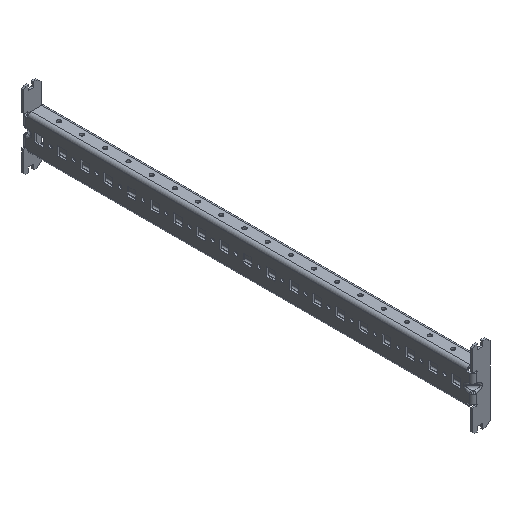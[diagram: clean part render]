
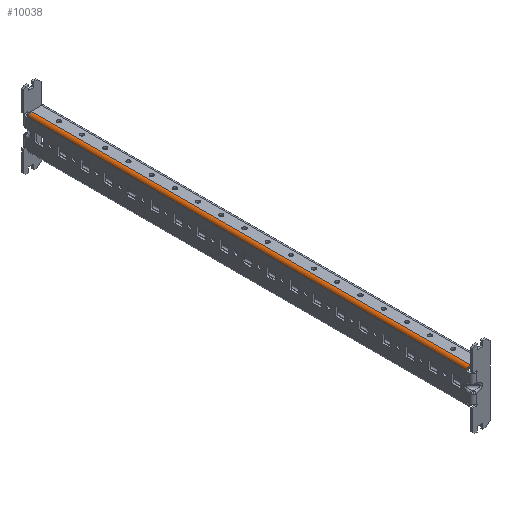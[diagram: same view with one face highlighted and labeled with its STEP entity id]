
A CAD part, isometric view. The second image highlights one B-rep face of the part: STEP entity #10038.
In plain terms, the highlighted cylindrical face has radius 3.5 mm (diameter 7 mm), a partial arc.
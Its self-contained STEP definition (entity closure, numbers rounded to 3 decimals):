
#1176 = CARTESIAN_POINT ( 'NONE',  ( 3.5, -236.625, 15.5 ) ) ;
#1177 = DIRECTION ( 'NONE',  ( 0., -1., 0. ) ) ;
#1178 = DIRECTION ( 'NONE',  ( 0., 0., -1. ) ) ;
#1180 = CARTESIAN_POINT ( 'NONE',  ( 3.5, 236.625, 15.5 ) ) ;
#1181 = LINE ( 'NONE', #1183, #6943 ) ;
#1183 = CARTESIAN_POINT ( 'NONE',  ( 3.5, 239.5, 19. ) ) ;
#1185 = DIRECTION ( 'NONE',  ( 0., -1., 0. ) ) ;
#1186 = DIRECTION ( 'NONE',  ( 0., -1., 0. ) ) ;
#1188 = DIRECTION ( 'NONE',  ( 0., 0., -1. ) ) ;
#1580 = ORIENTED_EDGE ( 'NONE', *, *, #10367, .F. ) ;
#1582 = ORIENTED_EDGE ( 'NONE', *, *, #10369, .T. ) ;
#1584 = ORIENTED_EDGE ( 'NONE', *, *, #10368, .F. ) ;
#1585 = ORIENTED_EDGE ( 'NONE', *, *, #12944, .T. ) ;
#2009 = DIRECTION ( 'NONE',  ( 0., 0., -1. ) ) ;
#2010 = DIRECTION ( 'NONE',  ( 0., -1., 0. ) ) ;
#2011 = CARTESIAN_POINT ( 'NONE',  ( 3.5, 239.5, 15.5 ) ) ;
#3024 = CARTESIAN_POINT ( 'NONE',  ( 0., -236.625, 15.5 ) ) ;
#3052 = CARTESIAN_POINT ( 'NONE',  ( 0., 236.625, 15.5 ) ) ;
#3229 = CARTESIAN_POINT ( 'NONE',  ( 3.5, -236.625, 19. ) ) ;
#3230 = CARTESIAN_POINT ( 'NONE',  ( 3.5, 236.625, 19. ) ) ;
#5289 = EDGE_LOOP ( 'NONE', ( #1584, #1582, #1585, #1580 ) ) ;
#6943 = VECTOR ( 'NONE', #1185, 1000. ) ;
#6955 = AXIS2_PLACEMENT_3D ( 'NONE', #1180, #1186, #1188 ) ;
#7029 = AXIS2_PLACEMENT_3D ( 'NONE', #1176, #1177, #1178 ) ;
#7358 = AXIS2_PLACEMENT_3D ( 'NONE', #2011, #2010, #2009 ) ;
#7360 = CYLINDRICAL_SURFACE ( 'NONE', #7358, 3.5 ) ;
#7367 = FACE_OUTER_BOUND ( 'NONE', #5289, .T. ) ;
#7828 = VERTEX_POINT ( 'NONE', #3230 ) ;
#7829 = VERTEX_POINT ( 'NONE', #3229 ) ;
#8065 = VERTEX_POINT ( 'NONE', #3052 ) ;
#8093 = VERTEX_POINT ( 'NONE', #3024 ) ;
#9178 = LINE ( 'NONE', #9179, #13821 ) ;
#9179 = CARTESIAN_POINT ( 'NONE',  ( 0., 239.5, 15.5 ) ) ;
#9180 = DIRECTION ( 'NONE',  ( 0., -1., 0. ) ) ;
#10038 = ADVANCED_FACE ( 'NONE', ( #7367 ), #7360, .T. ) ;
#10367 = EDGE_CURVE ( 'NONE', #7829, #8093, #12332, .T. ) ;
#10368 = EDGE_CURVE ( 'NONE', #7828, #7829, #1181, .T. ) ;
#10369 = EDGE_CURVE ( 'NONE', #7828, #8065, #12333, .T. ) ;
#12332 = CIRCLE ( 'NONE', #7029, 3.5 ) ;
#12333 = CIRCLE ( 'NONE', #6955, 3.5 ) ;
#12944 = EDGE_CURVE ( 'NONE', #8065, #8093, #9178, .T. ) ;
#13821 = VECTOR ( 'NONE', #9180, 1000. ) ;
